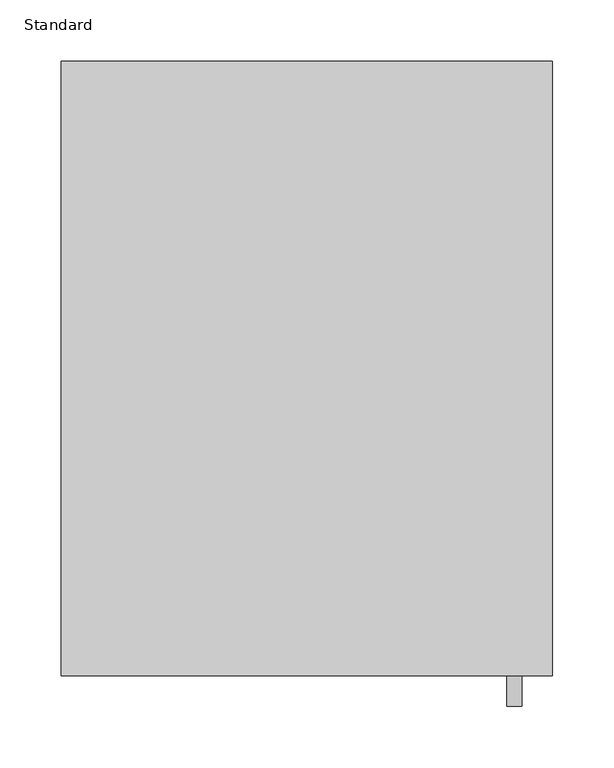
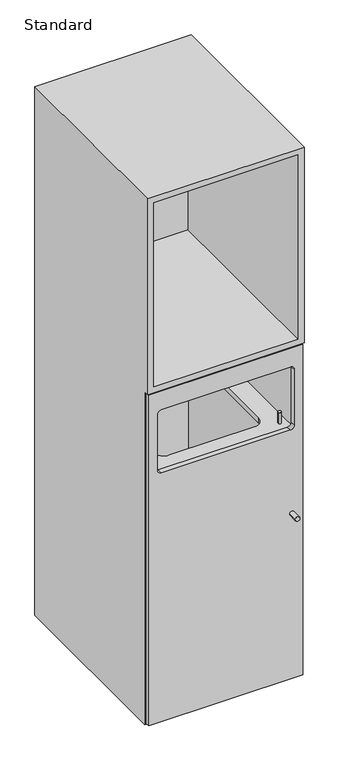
"""IFC4 building model written with IfcOpenShell, lengths in millimetres: furniture geometry, X_Locker-Duracube-EOT Bay : Standard."""

from ifc_helpers import new_model, si_unit, point, frame, frame_2d, origin, place, context, project, spatial, polyline, circle_curve, trimmed, segment, composite_curve, outline, extrude, faceted_brep, source, transform, mapped, element, save


def standard_a539c340(model_context):
    return source(origin(), model_context, "Body", "SolidModel", [
        extrude(outline(composite_curve([segment(trimmed(circle_curve(frame_2d((450.0, 213.7003264)), 6.0), [point((450.0, 207.7003264))], [point((450.0, 219.7003264))], False, "CARTESIAN"), True, "CONTINUOUS"), segment(trimmed(circle_curve(frame_2d((450.0, 213.7003264)), 6.0), [point((450.0, 219.7003264))], [point((450.0, 207.7003264))], False, "CARTESIAN"), True, "CONTINUOUS")], self_intersect=False)), frame((0.0, -525.0, 0.0), z_axis=(0.0, 1.0, 0.0), x_axis=(0.0, 0.0, 1.0)), (0.0, 0.0, 1.0), 25.0),
        faceted_brep([(-155.2996736, -500.0, 900.0), (244.7003264, -500.0, 900.0), (244.7003264, -500.0, 1430.0), (-155.2996736, -500.0, 1430.0), (-139.2996736, -500.0, 916.0), (-139.2996736, -500.0, 1414.0), (228.7003264, -500.0, 1414.0), (228.7003264, -500.0, 916.0), (-155.2996736, -487.0, 900.0), (-139.2996736, -487.0, 900.0), (-139.2996736, 0.0, 900.0), (228.7003264, 0.0, 900.0), (228.7003264, -487.0, 900.0), (244.7003264, -487.0, 900.0), (244.7003264, 0.0, 0.0), (244.7003264, 0.0, 1430.0), (244.7003264, -487.0, 0.0), (-155.2996736, 0.0, 1430.0), (-155.2996736, 0.0, 0.0), (-155.2996736, -487.0, 0.0), (-139.2996736, 0.0, 916.0), (-139.2996736, 0.0, 1414.0), (228.7003264, 0.0, 1414.0), (228.7003264, 0.0, 916.0), (-139.2996736, 0.0, 16.0), (228.7003264, 0.0, 16.0), (-139.2996736, -487.0, 16.0), (228.7003264, -487.0, 16.0)], [[[0, 1, 2, 3], [4, 5, 6, 7]], [[1, 0, 8, 9, 10, 11, 12, 13]], [[14, 15, 2, 1, 13, 16]], [[3, 17, 18, 19, 8, 0]], [[5, 4, 20, 21]], [[7, 6, 22, 23]], [[4, 7, 23, 20]], [[17, 15, 14, 18], [11, 10, 24, 25], [23, 22, 21, 20]], [[16, 19, 18, 14]], [[9, 26, 24, 10]], [[26, 27, 25, 24]], [[27, 12, 11, 25]], [[8, 19, 16, 13, 12, 27, 26, 9]], [[6, 5, 21, 22]], [[3, 2, 15, 17]]]),
        extrude(outline(polyline([(228.7003264, -13.0), (-139.2996736, -13.0), (-139.2996736, 0.0), (228.7003264, 0.0), (228.7003264, -13.0)])), frame((0.0, 0.0, 916.0), z_axis=(0.0, 0.0, 1.0), x_axis=(1.0, 0.0, 0.0)), (0.0, 0.0, 1.0), 498.0),
        extrude(outline(composite_curve([segment(trimmed(circle_curve(frame_2d((-120.2996736, -35.0)), 4.0), [point((-124.2996736, -35.0))], [point((-116.2996736, -35.0))], False, "CARTESIAN"), True, "CONTINUOUS"), segment(trimmed(circle_curve(frame_2d((-120.2996736, -35.0)), 4.0), [point((-116.2996736, -35.0))], [point((-124.2996736, -35.0))], False, "CARTESIAN"), True, "CONTINUOUS")], self_intersect=False)), frame((0.0, 0.0, 667.0), z_axis=(0.0, 0.0, 1.0), x_axis=(1.0, 0.0, 0.0)), (0.0, 0.0, 1.0), 30.0),
        extrude(outline(composite_curve([segment(trimmed(circle_curve(frame_2d((209.7003264, -35.0)), 4.0), [point((205.7003264, -35.0))], [point((213.7003264, -35.0))], False, "CARTESIAN"), True, "CONTINUOUS"), segment(trimmed(circle_curve(frame_2d((209.7003264, -35.0)), 4.0), [point((213.7003264, -35.0))], [point((205.7003264, -35.0))], False, "CARTESIAN"), True, "CONTINUOUS")], self_intersect=False)), frame((0.0, 0.0, 667.0), z_axis=(0.0, 0.0, 1.0), x_axis=(1.0, 0.0, 0.0)), (0.0, 0.0, 1.0), 30.0),
        extrude(outline(composite_curve([segment(trimmed(circle_curve(frame_2d((-120.2996736, -452.0)), 4.0), [point((-124.2996736, -452.0))], [point((-116.2996736, -452.0))], False, "CARTESIAN"), True, "CONTINUOUS"), segment(trimmed(circle_curve(frame_2d((-120.2996736, -452.0)), 4.0), [point((-116.2996736, -452.0))], [point((-124.2996736, -452.0))], False, "CARTESIAN"), True, "CONTINUOUS")], self_intersect=False)), frame((0.0, 0.0, 667.0), z_axis=(0.0, 0.0, 1.0), x_axis=(1.0, 0.0, 0.0)), (0.0, 0.0, 1.0), 30.0),
        extrude(outline(composite_curve([segment(trimmed(circle_curve(frame_2d((209.7003264, -452.0)), 4.0), [point((205.7003264, -452.0))], [point((213.7003264, -452.0))], False, "CARTESIAN"), True, "CONTINUOUS"), segment(trimmed(circle_curve(frame_2d((209.7003264, -452.0)), 4.0), [point((213.7003264, -452.0))], [point((205.7003264, -452.0))], False, "CARTESIAN"), True, "CONTINUOUS")], self_intersect=False)), frame((0.0, 0.0, 667.0), z_axis=(0.0, 0.0, 1.0), x_axis=(1.0, 0.0, 0.0)), (0.0, 0.0, 1.0), 30.0),
        extrude(outline(polyline([(228.7003264, -16.0), (228.7003264, -487.0), (-139.2996736, -487.0), (-139.2996736, -16.0), (228.7003264, -16.0)]), holes=[composite_curve([segment(polyline([(153.7003264, -66.0), (-64.2996736, -66.0)]), True, "CONTINUOUS"), segment(trimmed(circle_curve(frame_2d((-64.2996736, -91.0)), 25.0), [point((-64.2996736, -66.0))], [point((-89.2996736, -91.0))], True, "CARTESIAN"), True, "CONTINUOUS"), segment(polyline([(-89.2996736, -91.0), (-89.2996736, -412.0)]), True, "CONTINUOUS"), segment(trimmed(circle_curve(frame_2d((-64.2996736, -412.0)), 25.0), [point((-89.2996736, -412.0))], [point((-64.2996736, -437.0))], True, "CARTESIAN"), True, "CONTINUOUS"), segment(polyline([(-64.2996736, -437.0), (153.7003264, -437.0)]), True, "CONTINUOUS"), segment(trimmed(circle_curve(frame_2d((153.7003264, -412.0)), 25.0), [point((153.7003264, -437.0))], [point((178.7003264, -412.0))], True, "CARTESIAN"), True, "CONTINUOUS"), segment(polyline([(178.7003264, -412.0), (178.7003264, -91.0)]), True, "CONTINUOUS"), segment(trimmed(circle_curve(frame_2d((153.7003264, -91.0)), 25.0), [point((178.7003264, -91.0))], [point((153.7003264, -66.0))], True, "CARTESIAN"), True, "CONTINUOUS")], self_intersect=False)]), frame((0.0, 0.0, 654.0), z_axis=(0.0, 0.0, 1.0), x_axis=(1.0, 0.0, 0.0)), (0.0, 0.0, 1.0), 13.0),
        extrude(outline(polyline([(897.0, 241.7003264), (897.0, -152.2996736), (3.0, -152.2996736), (3.0, 241.7003264), (897.0, 241.7003264)]), holes=[composite_curve([segment(trimmed(circle_curve(frame_2d((837.0, 209.7003264)), 10.0), [point((847.0, 209.7003264))], [point((837.0, 219.7003264))], True, "CARTESIAN"), True, "CONTINUOUS"), segment(polyline([(837.0, 219.7003264), (687.0, 219.7003264)]), True, "CONTINUOUS"), segment(trimmed(circle_curve(frame_2d((687.0, 209.7003264)), 10.0), [point((687.0, 219.7003264))], [point((677.0, 209.7003264))], True, "CARTESIAN"), True, "CONTINUOUS"), segment(polyline([(677.0, 209.7003264), (677.0, -120.2996736)]), True, "CONTINUOUS"), segment(trimmed(circle_curve(frame_2d((687.0, -120.2996736)), 10.0), [point((677.0, -120.2996736))], [point((687.0, -130.2996736))], True, "CARTESIAN"), True, "CONTINUOUS"), segment(polyline([(687.0, -130.2996736), (837.0, -130.2996736)]), True, "CONTINUOUS"), segment(trimmed(circle_curve(frame_2d((837.0, -120.2996736)), 10.0), [point((837.0, -130.2996736))], [point((847.0, -120.2996736))], True, "CARTESIAN"), True, "CONTINUOUS"), segment(polyline([(847.0, -120.2996736), (847.0, 209.7003264)]), True, "CONTINUOUS")], self_intersect=False)]), frame((0.0, -500.0, 0.0), z_axis=(0.0, 1.0, 0.0), x_axis=(0.0, 0.0, 1.0)), (0.0, 0.0, 1.0), 13.0),
        extrude(outline(polyline([(228.7003264, -16.0), (-139.2996736, -16.0), (-139.2996736, 0.0), (228.7003264, 0.0), (228.7003264, -16.0)])), frame((0.0, 0.0, 16.0), z_axis=(0.0, 0.0, 1.0), x_axis=(1.0, 0.0, 0.0)), (0.0, 0.0, 1.0), 884.0),
    ])


if __name__ == "__main__":
    model = new_model("IFC4")
    model_context = context("Model", 3, world=origin())
    ifc_project = project(units=[si_unit("LENGTHUNIT", "METRE", prefix="MILLI")], contexts=[model_context])
    site = spatial("IfcSite", under=ifc_project)
    building = spatial("IfcBuilding", under=site)
    placement = place(None, origin())
    standard_shape = standard_a539c340(model_context)
    element("IfcFurniture", 1, ObjectType="X_Locker-Duracube-EOT Bay : Standard", at=placement, inside=building, context=model_context, shape_type="MappedRepresentation", body=[
        mapped(standard_shape, transform((0.0, 0.0, 0.0), x_axis=(1.0, 0.0, 0.0), y_axis=(0.0, 1.0, 0.0), z_axis=(0.0, 0.0, 1.0))),
    ])
    save(model, "model.ifc")
